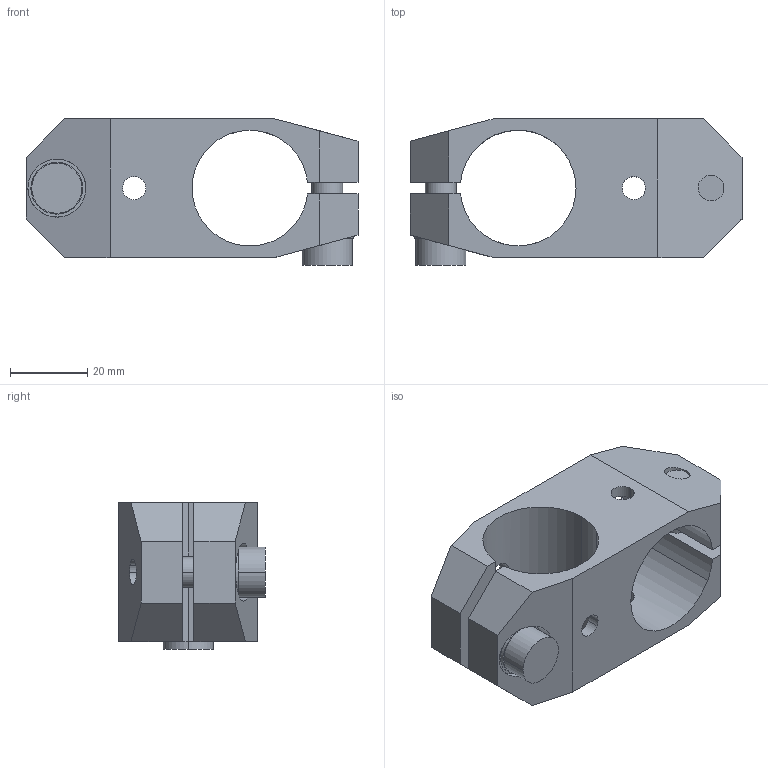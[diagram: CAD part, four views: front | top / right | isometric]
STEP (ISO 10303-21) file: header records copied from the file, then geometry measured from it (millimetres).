
FILE_DESCRIPTION(('STEP AP214'),'1');
FILE_NAME('EGT142_1714397_VERBINDER_D30_D30_FORM_X90_KE.CATPart.stp','2015-09-14T13:10:12',('3D-Tool'),(' '),'Spatial InterOp 3D',' ',' ');
FILE_SCHEMA(('automotive_design'));
Length unit declared in the file: millimetre
Products named in the file (1): EGT142_1714397_VERBINDER_D30_D30_FORM_X90_KE|PartBody|Assemble.31
Bounding box: 86 x 38 x 38 mm (x, y, z)
Volume: 44894.1 mm3; surface area: 19718.2 mm2
Topology: 1 solids, 1 shells, 96 faces, 252 edges, 168 vertices
Faces by surface type: cylinder 60, plane 36
Entity records: 4401 total; most frequent: CARTESIAN_POINT 1181, ORIENTED_EDGE 504, DIRECTION 502, EDGE_CURVE 252, AXIS2_PLACEMENT_3D 185, VERTEX_POINT 168, LINE 132, VECTOR 132
